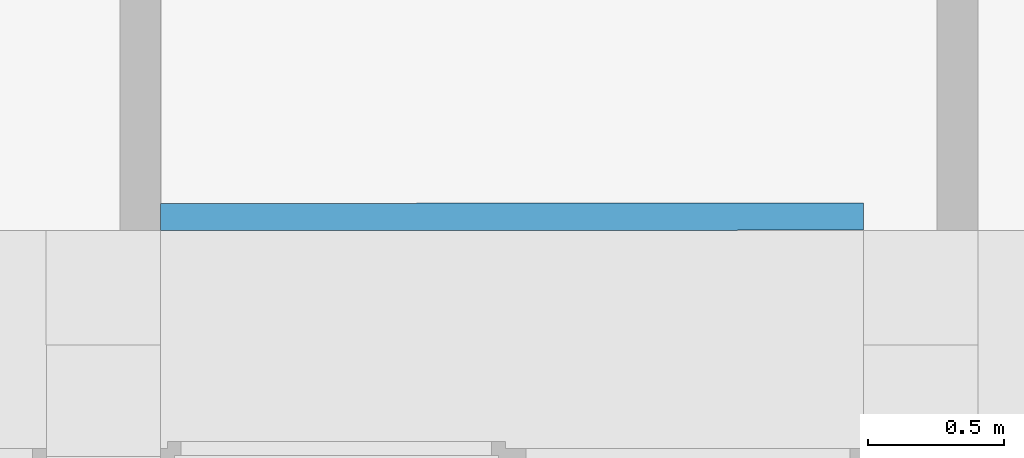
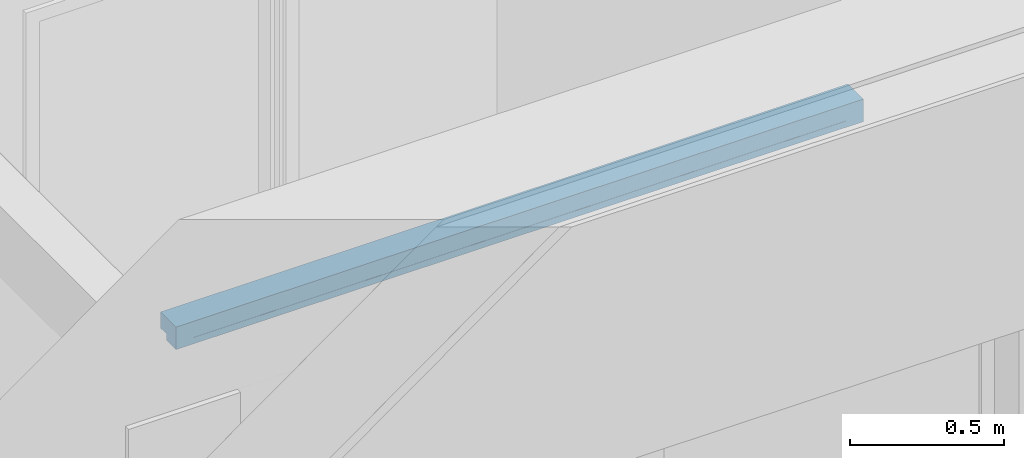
# One storey, part 92 of 194: 1 discrete accessory.
"""IFC2X3 building model written with IfcOpenShell, lengths in millimetres."""

from ifc_helpers import new_model, entity, si_unit, converted_unit, derived_unit, money_unit, direction, frame, origin_with_axes, place, context, subcontext, project, spatial, faceted_brep, type_object, element, save


model = new_model("IFC2X3")

# Units and contexts
model_context = context("Model", 3, precision=1e-05, world=origin_with_axes(), true_north=direction((0.0, 1.0)))
body_context = subcontext(model_context, "Body", "Model", "MODEL_VIEW")
ifc_project = project(units=[si_unit("LENGTHUNIT", "METRE", prefix="MILLI"), si_unit("AREAUNIT", "SQUARE_METRE"), si_unit("VOLUMEUNIT", "CUBIC_METRE"), converted_unit("PLANEANGLEUNIT", "DEGREE", entity("IfcPlaneAngleMeasure", 0.0174532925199), si_unit("PLANEANGLEUNIT", "RADIAN"), dimensions=[0, 0, 0, 0, 0, 0, 0]), si_unit("SOLIDANGLEUNIT", "STERADIAN"), money_unit("EUR"), converted_unit("TIMEUNIT", "Year", entity("IfcTimeMeasure", 31556926.0), si_unit("TIMEUNIT", "SECOND"), dimensions=[0, 0, 1, 0, 0, 0, 0]), si_unit("MASSUNIT", "GRAM", prefix="KILO"), si_unit("THERMODYNAMICTEMPERATUREUNIT", "DEGREE_CELSIUS"), si_unit("LUMINOUSINTENSITYUNIT", "LUMEN"), si_unit("ENERGYUNIT", "JOULE", prefix="MEGA"), derived_unit("THERMALCONDUCTANCEUNIT", [(si_unit("POWERUNIT", "WATT"), 1), (si_unit("LENGTHUNIT", "METRE"), -1), (si_unit("THERMODYNAMICTEMPERATUREUNIT", "KELVIN"), -1)]), derived_unit("SPECIFICHEATCAPACITYUNIT", [(si_unit("ENERGYUNIT", "JOULE"), 1), (si_unit("MASSUNIT", "GRAM", prefix="KILO"), -1), (si_unit("THERMODYNAMICTEMPERATUREUNIT", "KELVIN"), -1)]), derived_unit("MASSDENSITYUNIT", [(si_unit("MASSUNIT", "GRAM", prefix="KILO"), 1), (si_unit("VOLUMEUNIT", "CUBIC_METRE"), -1)])], contexts=[model_context])

# Site, building, storey
site_placement = place(None, origin_with_axes())
site = spatial("IfcSite", under=ifc_project, at=site_placement, Name="Site", CompositionType="ELEMENT")
building_placement = place(site_placement, origin_with_axes())
building = spatial("IfcBuilding", under=site, at=building_placement, Name="Building", CompositionType="ELEMENT")
storey_placement = place(building_placement, frame((0.0, 0.0, 3000.0), z_axis=(0.0, 0.0, 1.0), x_axis=(1.0, 0.0, 0.0)))
storey = spatial("IfcBuildingStorey", under=building, at=storey_placement, Name="2 KORRUS", CompositionType="ELEMENT", Elevation=3000.0)

# Discrete accessory
discrete_accessory_type = type_object("IfcDiscreteAccessoryType", Name="Vertical Gable Louver 22")
discrete_accessory_placement = place(storey_placement, frame((51734.3267149, 35183.6091759, 3164.44917057), z_axis=(0.0, 0.0, 1.0), x_axis=(-0.999999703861, -0.000769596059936, 0.0)))
element("IfcDiscreteAccessory", 1, at=discrete_accessory_placement, inside=storey, type_object=discrete_accessory_type, Name="Turvakardin", context=body_context, shape_type="Brep", body=[
    faceted_brep([(2579.47639135, 0.0, 25.4), (2515.97639135, 0.0, 25.4), (2515.97639135, 0.0, 26.1572487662), (2579.47639135, 0.0, 89.6572487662), (2579.47639135, -100.0, 25.4), (2563.60139135, -100.0, 25.4), (2555.66691749, -75.0095311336, 25.4), (2555.66389135, -75.0, 25.4), (2555.65401309, -74.9984443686, 25.4), (2515.98626961, -68.7515556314, 25.4), (2515.97639135, -68.74, 25.4), (2515.97639135, -68.74, 26.1572487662), (63.5, 0.0, 26.1572487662), (0.0, 0.0, 89.6572487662), (2579.47639135, -100.0, 89.6572487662), (2563.60139135, -100.0, 73.7822487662), (2555.66691749, -75.0095311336, 65.8477749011), (2555.66389135, -75.0, 65.8447487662), (2555.65401309, -74.9984443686, 65.8348705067), (2515.98626961, -68.7515556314, 26.1671270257), (63.5, -68.74, 26.1572487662), (63.5, 0.0, 25.4), (0.0, 0.0, 25.4), (0.0, -100.0, 89.6572487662), (15.875, -100.0, 73.7822487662), (23.8094738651, -75.0095311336, 65.8477749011), (23.8125, -75.0, 65.8447487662), (23.8223782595, -74.9984443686, 65.8348705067), (63.4901217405, -68.7515556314, 26.1671270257), (63.5, -68.74, 25.4), (63.4901217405, -68.7515556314, 25.4), (23.8223782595, -74.9984443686, 25.4), (23.8125, -75.0, 25.4), (23.8094738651, -75.0095311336, 25.4), (15.875, -100.0, 25.4), (0.0, -100.0, 25.4)], [[[0, 1, 2, 3]], [[0, 4, 5, 6, 7, 8, 9, 10, 1]], [[1, 10, 11, 2]], [[3, 2, 12, 13]], [[4, 0, 3, 14]], [[5, 4, 14, 15]], [[6, 5, 15, 16]], [[7, 6, 16, 17]], [[8, 7, 17, 18]], [[9, 8, 18, 19]], [[10, 9, 19, 11]], [[2, 11, 20, 12]], [[13, 12, 21, 22]], [[14, 3, 13, 23]], [[15, 14, 23, 24]], [[16, 15, 24, 25]], [[17, 16, 25, 26]], [[18, 17, 26, 27]], [[19, 18, 27, 28]], [[11, 19, 28, 20]], [[12, 20, 29, 21]], [[22, 21, 29, 30, 31, 32, 33, 34, 35]], [[23, 13, 22, 35]], [[24, 23, 35, 34]], [[25, 24, 34, 33]], [[26, 25, 33, 32]], [[27, 26, 32, 31]], [[28, 27, 31, 30]], [[20, 28, 30, 29]]]),
    faceted_brep([(2579.47639135, 0.0, 0.0), (0.0, 0.0, 0.0), (0.0, 0.0, 25.4), (2579.47639135, 0.0, 25.4), (2579.47639135, -60.0, 0.0), (0.0, -60.0, 0.0), (0.0, -60.0, 25.4), (2579.47639135, -60.0, 25.4)], [[[0, 1, 2, 3]], [[1, 0, 4, 5]], [[2, 1, 5, 6]], [[3, 2, 6, 7]], [[0, 3, 7, 4]], [[5, 4, 7, 6]]]),
    faceted_brep([(2515.97639135, -62.5, 25.4), (2515.97639135, -62.5, 26.1572487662), (63.5, -62.5, 26.1572487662), (63.5, -62.5, 25.4), (2515.97639135, -50.0, 25.4), (2515.97639135, -49.4699258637, 26.1572487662), (63.5, -49.4699258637, 26.1572487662), (63.5, -50.0, 25.4)], [[[0, 1, 2, 3]], [[0, 4, 5, 1]], [[1, 5, 6, 2]], [[3, 2, 6, 7]], [[4, 0, 3, 7]], [[5, 4, 7, 6]]]),
])

save(model, "model.ifc")
